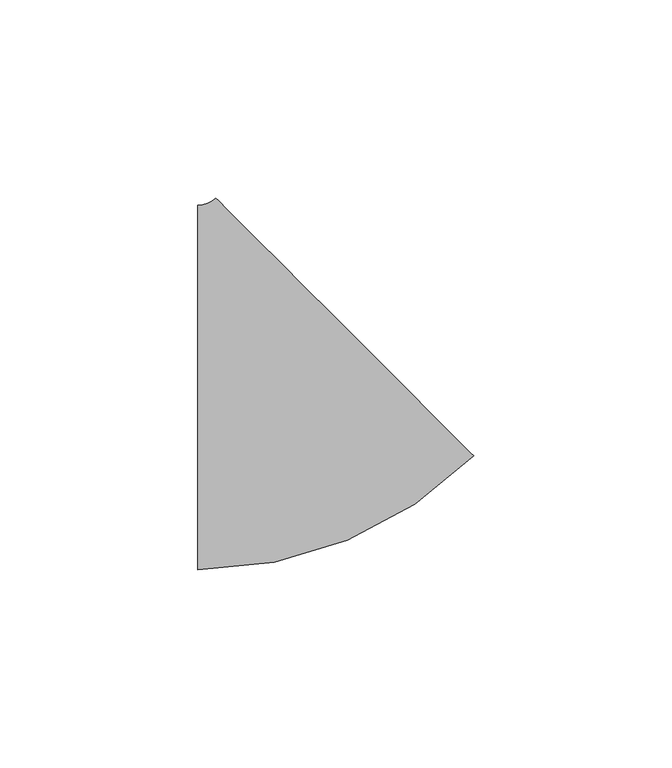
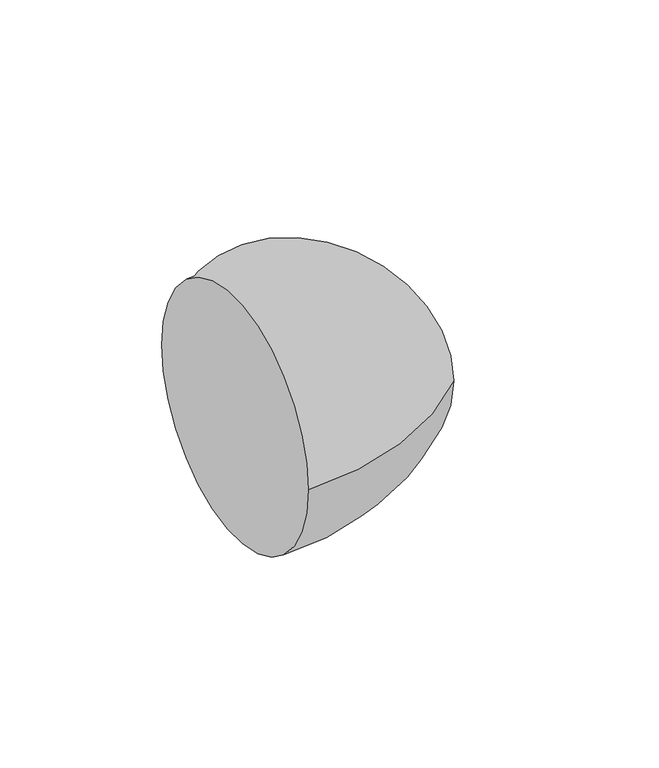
"""IFC4 building model written with IfcOpenShell, lengths in millimetres: pipe fitting geometry, M_Codo - Genérico : Estándar."""

from ifc_helpers import new_model, si_unit, point, frame, origin, place, context, project, spatial, circle_curve, ellipse_curve, trimmed, source, transform, mapped, element, save
from ifc_brep_helpers import plane_surface, revolved_surface, advanced_brep


def pipe_fitting_f5d6ed74(model_context):
    return source(origin(), model_context, "Body", "AdvancedBrep", [
        advanced_brep(
        [(-21.6998763, -46.0375, 0.0), (-21.6998763, 46.0375, 0.0), (47.8977057, -17.2088879, 0.0), (-17.2097097, 47.8974105, 0.0)],
        [
            (0, 1, circle_curve(frame((-21.6998763, 0.0, 0.0), z_axis=(-1.0, 0.0, 0.0), x_axis=(0.0, 1.0, 0.0)), 46.0375)),
            (1, 0, circle_curve(frame((-21.6998763, 0.0, 0.0), z_axis=(-1.0, 0.0, 0.0), x_axis=(0.0, 1.0, 0.0)), 46.0375)),
            (2, 3, circle_curve(frame((15.343998, 15.3442613, 0.0), z_axis=(0.7071007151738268, 0.7071128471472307, 0.0), x_axis=(-0.7071128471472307, 0.7071007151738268, 0.0)), 46.0375)),
            (3, 2, circle_curve(frame((15.343998, 15.3442613, 0.0), z_axis=(0.7071007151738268, 0.7071128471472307, 0.0), x_axis=(-0.7071128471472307, 0.7071007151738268, 0.0)), 46.0375)),
            (3, 1, circle_curve(frame((-21.6998763, 52.3875, 0.0), z_axis=(0.0, 0.0, -1.0), x_axis=(0.0, -1.0, 0.0)), 6.35)),
            (0, 2, circle_curve(frame((-21.6998763, 52.3875, 0.0), z_axis=(0.0, 0.0, 1.0), x_axis=(0.0, -1.0, 0.0)), 98.425)),
        ],
        [
            plane_surface(frame((-21.6998763, 0.0, 0.0), z_axis=(-1.0, 0.0, 0.0), x_axis=(0.0, 0.0, 1.0))),
            plane_surface(frame((15.343998, 15.3442613, 0.0), z_axis=(0.7071007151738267, 0.7071128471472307, 0.0), x_axis=(0.0, 0.0, 1.0))),
            revolved_surface(trimmed(ellipse_curve(frame((-21.6998763, 0.0, 0.0), z_axis=(-1.0, 0.0, 0.0), x_axis=(0.0, 1.0, 0.0)), 46.0375, 46.0375), [point((-21.6998763, -46.0375, 0.0))], [point((-21.6998763, 46.0375, 0.0))], True, "CARTESIAN"), (-21.6998763, 52.3875, 0.0), (0.0, 0.0, 1.0)),
            revolved_surface(trimmed(ellipse_curve(frame((-21.6998763, 0.0, 0.0), z_axis=(-1.0, 0.0, 0.0), x_axis=(0.0, 1.0, 0.0)), 46.0375, 46.0375), [point((-21.6998763, 46.0375, 0.0))], [point((-21.6998763, -46.0375, 0.0))], True, "CARTESIAN"), (-21.6998763, 52.3875, 0.0), (0.0, 0.0, 1.0)),
        ],
        [
            (0, [[1, 2]]),
            (1, [[3, 4]]),
            (2, [[5, -1, 6, -4]]),
            (3, [[-6, -2, -5, -3]]),
        ],
    ),
    ])


if __name__ == "__main__":
    model = new_model("IFC4")
    model_context = context("Model", 3, world=origin())
    ifc_project = project(units=[si_unit("LENGTHUNIT", "METRE", prefix="MILLI")], contexts=[model_context])
    site = spatial("IfcSite", under=ifc_project)
    building = spatial("IfcBuilding", under=site)
    placement = place(None, origin())
    pipe_fitting_shape = pipe_fitting_f5d6ed74(model_context)
    element("IfcPipeFitting", 1, ObjectType="M_Codo - Genérico : Estándar", at=placement, inside=building, context=model_context, shape_type="MappedRepresentation", body=[
        mapped(pipe_fitting_shape, transform((0.0, 0.0, 0.0), x_axis=(1.0, 0.0, 0.0), y_axis=(0.0, 1.0, 0.0), z_axis=(0.0, 0.0, 1.0))),
    ])
    save(model, "model.ifc")
